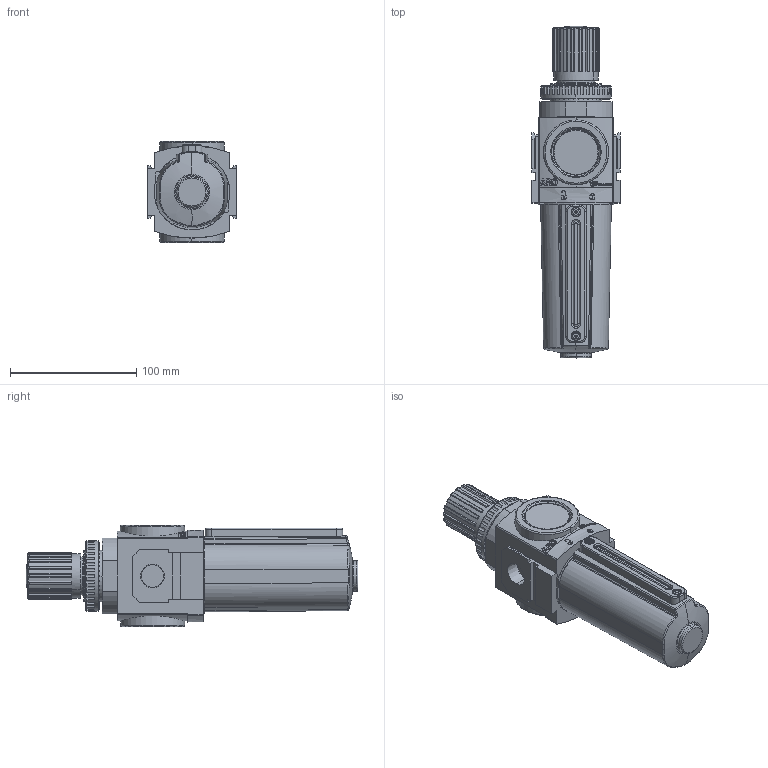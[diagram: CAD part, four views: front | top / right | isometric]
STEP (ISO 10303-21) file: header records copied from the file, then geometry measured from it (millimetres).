
FILE_DESCRIPTION(/* description */ (''),/* implementation_level */ '2;1');
FILE_NAME(/* name */ 'P393XX-X1X_02',/* time_stamp */ '2009-02-06T11:30:03-05:00',/* author */ (''),/* organization */ (''),/* preprocessor_version */ 'ST-DEVELOPER v9',/* originating_system */ 'UGS - NX 4.0',/* authorisation */ '');
FILE_SCHEMA (('AUTOMOTIVE_DESIGN { 1 0 10303 214 1 1 1 1 }'));
Products named in the file (1): szeeA340nhma
Bounding box: 70 x 262.89 x 80 mm (x, y, z)
Volume: 728410.9 mm3; surface area: 72270.6 mm2
Topology: 2 solids, 2 shells, 1329 faces, 3322 edges, 2116 vertices
Faces by surface type: plane 705, cylinder 367, bspline 95, extrusion 51, torus 51, cone 47, revolution 7, sphere 6
Entity records: 56662 total; most frequent: CARTESIAN_POINT 17647, ORIENTED_EDGE 6642, DIRECTION 5286, EDGE_CURVE 3321, VERTEX_POINT 2117, VECTOR 1793, AXIS2_PLACEMENT_3D 1743, LINE 1742
